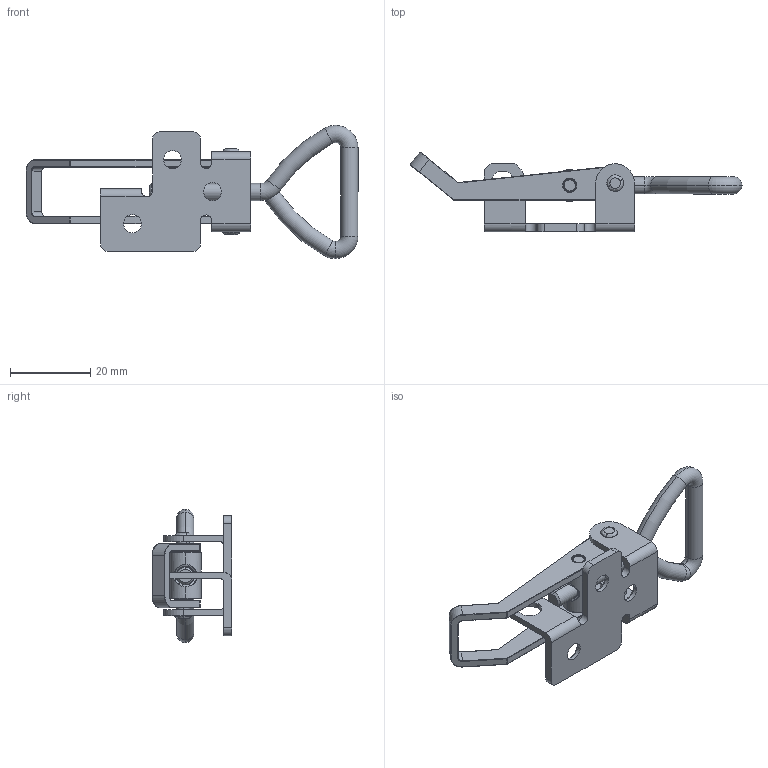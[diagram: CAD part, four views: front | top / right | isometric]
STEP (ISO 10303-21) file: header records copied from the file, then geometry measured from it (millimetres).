
FILE_DESCRIPTION (( 'STEP AP214' ), '1' );
FILE_NAME ('701L.STEP', '2016-09-16T03:20:31', ( 'rquinn' ), ( '' ), 'SwSTEP 2.0', 'SolidWorks 2016', '' );
FILE_SCHEMA (( 'AUTOMOTIVE_DESIGN' ));
Length unit declared in the file: millimetre
Products named in the file (6): 701L plate; 701L; Part2_1; Part1_1; Part6_1; Part3_1
Assembly tree (6 placements, depth 2):
  701L
    701L plate
    Part1_1
    Part2_1
    Part3_1
    Part6_1  x2
Bounding box: 82.96 x 19.94 x 33.3 mm (x, y, z)
Volume: 5381.7 mm3; surface area: 6745.1 mm2
Topology: 6 solids, 6 shells, 246 faces, 587 edges, 356 vertices
Faces by surface type: bspline 91, cylinder 90, plane 45, torus 12, cone 8
Entity records: 9986 total; most frequent: CARTESIAN_POINT 4766, ORIENTED_EDGE 1098, DIRECTION 1023, EDGE_CURVE 549, AXIS2_PLACEMENT_3D 423, VERTEX_POINT 334, CIRCLE 267, EDGE_LOOP 251
